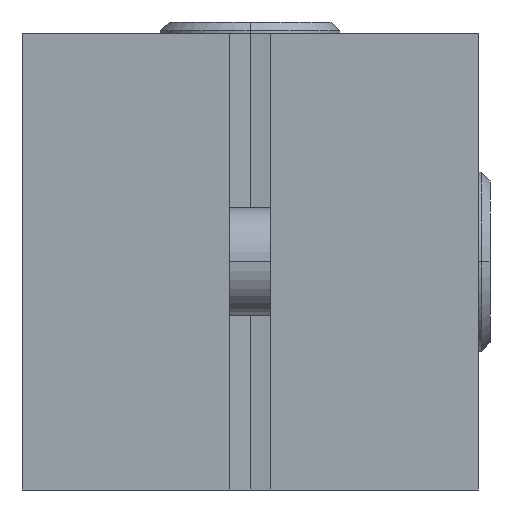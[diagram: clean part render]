
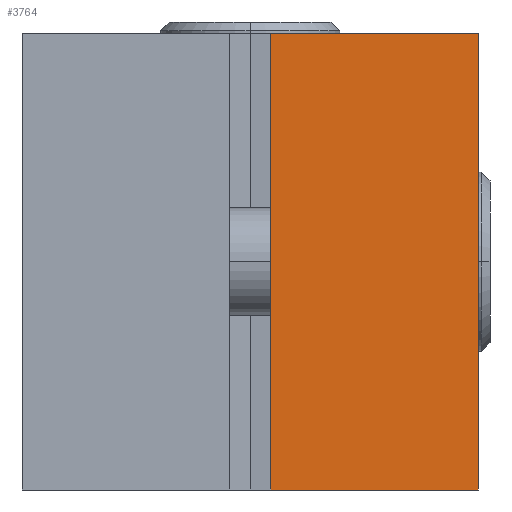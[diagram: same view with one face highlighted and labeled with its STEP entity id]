
A CAD part, left-side view. The second image highlights one B-rep face of the part: STEP entity #3764.
In plain terms, the highlighted planar face has unit normal (-1, 0, 0).
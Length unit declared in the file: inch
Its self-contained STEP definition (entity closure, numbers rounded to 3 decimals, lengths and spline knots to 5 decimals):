
#2449 = DIRECTION ( 'NONE',  ( 1., 0., 0. ) ) ;
#2450 = DIRECTION ( 'NONE',  ( 0., 0., -1. ) ) ;
#3001 = EDGE_CURVE ( 'NONE', #4042, #4242, #3288, .T. ) ;
#3288 = LINE ( 'NONE', #11799, #3289 ) ;
#3289 = VECTOR ( 'NONE', #11800, 39.37008 ) ;
#3509 = FACE_OUTER_BOUND ( 'NONE', #8804, .T. ) ;
#3764 = ADVANCED_FACE ( 'NONE', ( #3509 ), #4870, .F. ) ;
#4042 = VERTEX_POINT ( 'NONE', #17007 ) ;
#4169 = VERTEX_POINT ( 'NONE', #17134 ) ;
#4184 = VERTEX_POINT ( 'NONE', #17149 ) ;
#4242 = VERTEX_POINT ( 'NONE', #17207 ) ;
#4870 = PLANE ( 'NONE',  #8007 ) ;
#4871 = CARTESIAN_POINT ( 'NONE',  ( 0., 1., 0. ) ) ;
#7321 = ORIENTED_EDGE ( 'NONE', *, *, #3001, .F. ) ;
#7322 = ORIENTED_EDGE ( 'NONE', *, *, #12174, .T. ) ;
#7323 = ORIENTED_EDGE ( 'NONE', *, *, #12175, .T. ) ;
#7324 = ORIENTED_EDGE ( 'NONE', *, *, #17476, .T. ) ;
#8007 = AXIS2_PLACEMENT_3D ( 'NONE', #4871, #2449, #2450 ) ;
#8804 = EDGE_LOOP ( 'NONE', ( #7321, #7322, #7323, #7324 ) ) ;
#10203 = CARTESIAN_POINT ( 'NONE',  ( 0., 0., 0. ) ) ;
#10204 = DIRECTION ( 'NONE',  ( 0., 0., 1. ) ) ;
#10316 = LINE ( 'NONE', #10203, #10317 ) ;
#10317 = VECTOR ( 'NONE', #10204, 39.37008 ) ;
#11566 = CARTESIAN_POINT ( 'NONE',  ( 0., 0.455, 0. ) ) ;
#11567 = DIRECTION ( 'NONE',  ( 0., 0., -1. ) ) ;
#11568 = CARTESIAN_POINT ( 'NONE',  ( 0., 1., -1. ) ) ;
#11569 = DIRECTION ( 'NONE',  ( 0., -1., 0. ) ) ;
#11799 = CARTESIAN_POINT ( 'NONE',  ( 0., 1., 0. ) ) ;
#11800 = DIRECTION ( 'NONE',  ( 0., -1., 0. ) ) ;
#12174 = EDGE_CURVE ( 'NONE', #4042, #4169, #16574, .T. ) ;
#12175 = EDGE_CURVE ( 'NONE', #4169, #4184, #16577, .T. ) ;
#16574 = LINE ( 'NONE', #11566, #16576 ) ;
#16576 = VECTOR ( 'NONE', #11567, 39.37008 ) ;
#16577 = LINE ( 'NONE', #11568, #16578 ) ;
#16578 = VECTOR ( 'NONE', #11569, 39.37008 ) ;
#17007 = CARTESIAN_POINT ( 'NONE',  ( 0., 0.455, 0. ) ) ;
#17134 = CARTESIAN_POINT ( 'NONE',  ( 0., 0.455, -1. ) ) ;
#17149 = CARTESIAN_POINT ( 'NONE',  ( 0., 0., -1. ) ) ;
#17207 = CARTESIAN_POINT ( 'NONE',  ( 0., 0., 0. ) ) ;
#17476 = EDGE_CURVE ( 'NONE', #4184, #4242, #10316, .T. ) ;
